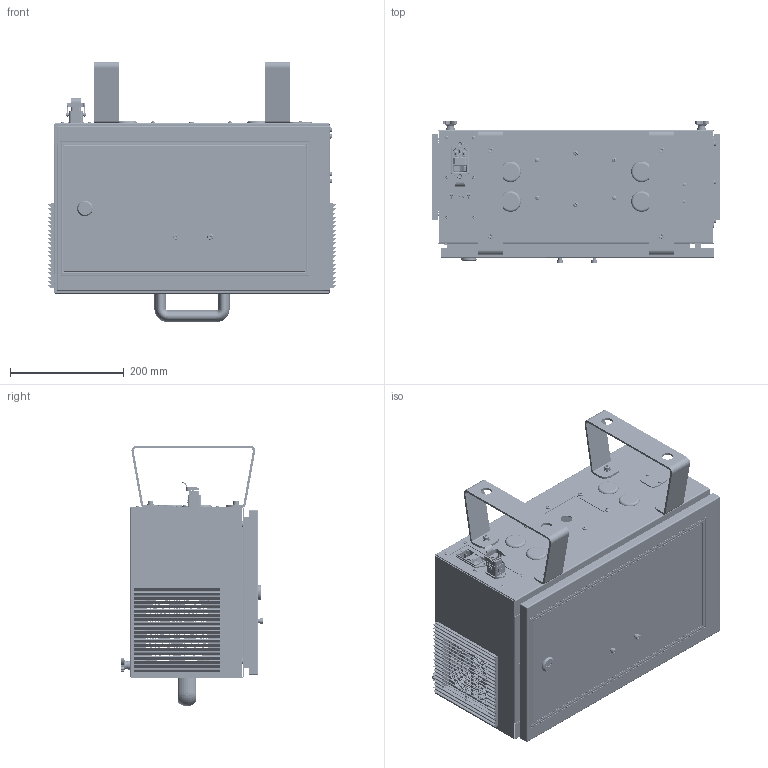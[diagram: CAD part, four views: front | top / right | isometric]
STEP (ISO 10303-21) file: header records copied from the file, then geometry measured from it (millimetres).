
FILE_DESCRIPTION (( 'STEP AP203' ), '1' );
FILE_NAME ('EC¿ØÖÆÏä.STEP', '2021-08-05T05:11:27', ( '' ), ( '' ), 'SwSTEP 2.0', 'SolidWorks 2017', '' );
FILE_SCHEMA (( 'CONFIG_CONTROL_DESIGN' ));
Length unit declared in the file: millimetre
Products named in the file (43): 磁珜03; DD11郪璃; EC-CB06; 諷秶嶄藷; hexagon nuts with flange gb_GB_HEXAGON_TYPE12 M6-N; 啎隱諳揤啣; DD11; 磁珜-02; EMC鍼踢; XAS11; C炵蹈諷秶嶄眊极; 諷秶眊眊极-C; plain washers--product grade c gb_GB_FASTENER_WASHER_SMWC 6; J-HGY11-8.4-229; 啎隱揤啣02; 菁醱盓殤; 磁珜-01; cross recessed pan head screws gb_GB_CROSS_SCREWS_TYPE1 M4X6-6  H type-N; 諷秶眊藷-C; 瑞圮徹薦んㄗEMCㄘ; 諉華梓祩; cross recessed pan head screws gb_GB_CROSS_SCREWS_TYPE1 M3X6-6  H type-N; hexagon socket head cap screws gb_GB_FASTENER_SCREWS_HSHCS M6X16-N; knurled thumb screws gb_GB_KNURLED_SCREWS_TYPE1 M8X12-N; HARTING 脣釱; cross recessed countersunk head screws gb2_GB_CROSS_SCREWS_TYPE10 M3X16-14.35-Z1-N; HARTING插座安装板-C（DD11); 09200030301_100094829MOD000E; hexagon nuts with flange gb_GB_HEXAGON_TYPE12 M8-N; 扣式塞头 MBP-25.4; cross recessed countersunk head screws gb2_GB_CROSS_SCREWS_TYPE10 M3X8-6.35-Z1-N; EC諷秶眊; 蝓蟈; 躇猾菜; hexagon socket head cap screws gb_GB_FASTENER_SCREWS_HSHCS M6X10-N; XAG01_L114; J-HGY11-8.4-455; J-HGY03-11-8.4; 09360083101_100179185MOD000B; hex nuts, style 1-grades ab gb_GB_FASTENER_NUT_SNAB1 M3-N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
Assembly tree (120 placements, depth 4):
  EC諷秶眊
    諷秶眊眊极-C
      C炵蹈諷秶嶄眊极
      菁醱盓殤  x2
      J-HGY03-11-8.4
        J-HGY11-8.4-455  x2
        J-HGY11-8.4-229  x2
      啎隱揤啣02
      XAG01_L114
      扣式塞头 MBP-25.4  x4
      hexagon socket head cap screws gb_GB_FASTENER_SCREWS_HSHCS M6X10-N  x6
      cross recessed pan head screws gb_GB_CROSS_SCREWS_TYPE1 M3X6-6  H type-N  x8
      plain washers--product grade c gb_GB_FASTENER_WASHER_SMWC 6  x4
      hexagon nuts with flange gb_GB_HEXAGON_TYPE12 M6-N  x5
      cross recessed pan head screws gb_GB_CROSS_SCREWS_TYPE1 M4X6-6  H type-N  x12
      hexagon socket head cap screws gb_GB_FASTENER_SCREWS_HSHCS M6X16-N  x6
      knurled thumb screws gb_GB_KNURLED_SCREWS_TYPE1 M8X12-N  x2
      hexagon nuts with flange gb_GB_HEXAGON_TYPE12 M8-N  x2
      諉華梓祩  x5
    瑞圮徹薦んㄗEMCㄘ
      EMC鍼踢
      FE-460-2
      cross recessed countersunk head screws gb2_GB_CROSS_SCREWS_TYPE10 M3X8-6.35-Z1-N  x4
      cross recessed countersunk head screws gb2_GB_CROSS_SCREWS_TYPE10 M3X16-14.35-Z1-N  x4
      hex nuts, style 1-grades ab gb_GB_FASTENER_NUT_SNAB1 M3-N  x4
    瑞圮徹薦んㄗEMCㄘ
      EMC鍼踢
      FE-460-2
      cross recessed countersunk head screws gb2_GB_CROSS_SCREWS_TYPE10 M3X8-6.35-Z1-N  x4
      cross recessed countersunk head screws gb2_GB_CROSS_SCREWS_TYPE10 M3X16-14.35-Z1-N
    DD11郪璃
      DD11
      HARTING插座安装板-C（DD11)
      HARTING 脣釱
        09150006201_100098449MOD000B  x7
        09360083101_100179185MOD000B
        09200030301_100094829MOD000E
      躇猾菜
    EC-CB06  x2
    諷秶眊藷-C
      諷秶嶄藷
      XAS11
      蝓蟈  x2
        磁珜-01
        磁珜-02
        磁珜03
      hexagon nuts with flange gb_GB_HEXAGON_TYPE12 M6-N  x3
      hexagon socket head cap screws gb_GB_FASTENER_SCREWS_HSHCS M6X10-N  x2
      諉華梓祩
    啎隱諳揤啣
Bounding box: 505.4 x 249.4 x 457.05 mm (x, y, z)
Volume: 1584703.9 mm3; surface area: 2058431.4 mm2
Topology: 135 solids, 149 shells, 14760 faces, 40258 edges, 25928 vertices
Faces by surface type: plane 11314, cylinder 2627, cone 449, bspline 222, torus 104, sphere 44
Entity records: 260109 total; most frequent: CARTESIAN_POINT 54779, ORIENTED_EDGE 42408, DIRECTION 39219, EDGE_CURVE 21211, LINE 17273, VECTOR 17273, VERTEX_POINT 13667, AXIS2_PLACEMENT_3D 10973
